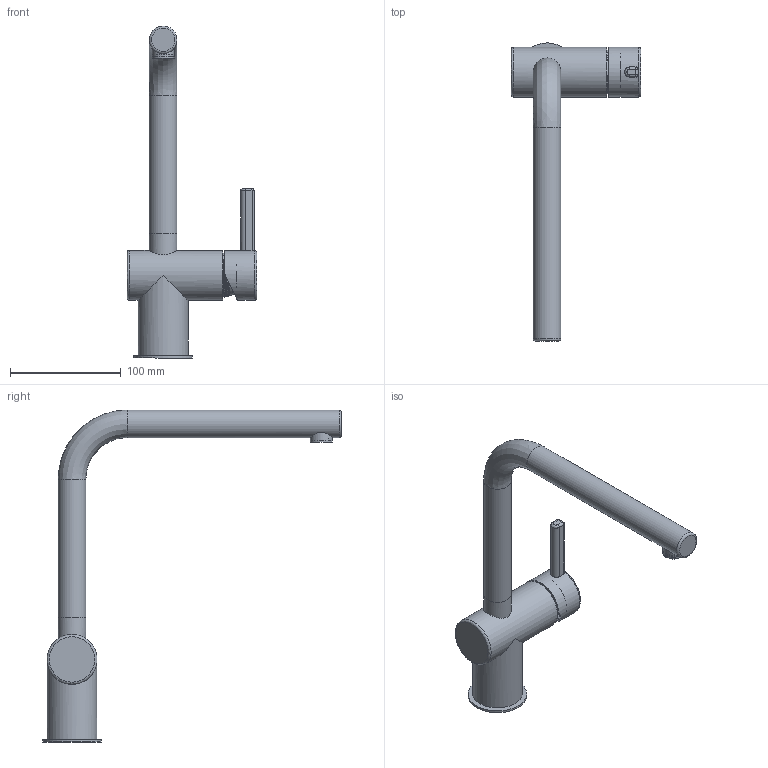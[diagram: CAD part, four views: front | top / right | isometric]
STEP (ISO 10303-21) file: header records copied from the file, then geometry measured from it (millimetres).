
FILE_DESCRIPTION(/* description */ (''),/* implementation_level */ '2;1');
FILE_NAME(/* name */ '3D001_Taps_Atlas-Neo_Swivel',/* time_stamp */ '2024-01-30T12:23:38+01:00',/* author */ (''),/* organization */ (''),/* preprocessor_version */ 'ST-DEVELOPER v19.2',/* originating_system */ 'Rhino 8.3',/* authorisation */ '');
FILE_SCHEMA (('CONFIG_CONTROL_DESIGN'));
Length unit declared in the file: millimetre
Products named in the file (23): Document; 190004111; 190008219; handle Assembly; handle; 190014532---T12139把手筒(无红蓝点); 190014532-中间方孔; handle bar; M6 Screw; M6 Nut; M5 Screw; 190013018; 190004083; FAXIN; 190014628; 190014505; 190014629; 190006548; 190014623; 190001868; 190007909; 190014516---非抽拉定位塑料套; 190014637
Bounding box: 117.13 x 269.5 x 299.5 mm (x, y, z)
Volume: 239308.2 mm3; surface area: 142489.2 mm2
Topology: 28 solids, 28 shells, 824 faces, 2100 edges, 1373 vertices
Faces by surface type: plane 391, cylinder 255, bspline 178
Full cylindrical faces by diameter (mm): 2 x1, 3 x1, 3.35 x3, 4 x3, 4.25 x1, 4.7 x2, 5 x2, 5.1 x4, 5.2 x6, 5.5 x2, 6 x15, 8 x6, 9.1 x2, 9.3 x2, 9.5 x3, 10.8 x2, 11 x1, 13 x1, 13.2 x4, 15 x2, 16 x1, 16.5 x2, 17.5 x1, 17.6 x4, 18 x2, 18.5 x1, 18.7 x1, 19 x5, 19.9 x1, 20 x1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
Entity records: 43907 total; most frequent: CARTESIAN_POINT 24913, ORIENTED_EDGE 4186, EDGE_CURVE 2093, DIRECTION 2018, B_SPLINE_CURVE_WITH_KNOTS 1429, VERTEX_POINT 1372, AXIS2_PLACEMENT_3D 1332, EDGE_LOOP 915
